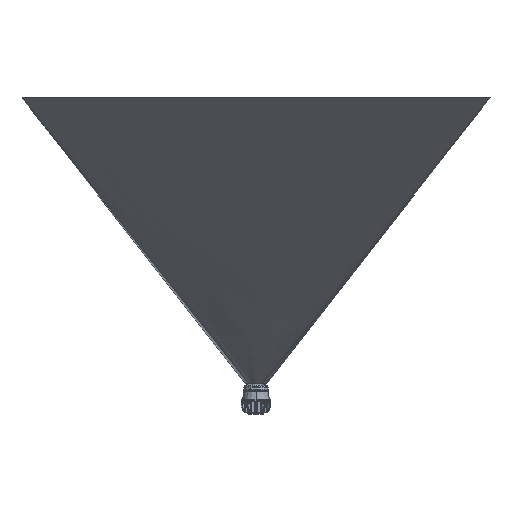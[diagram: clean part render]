
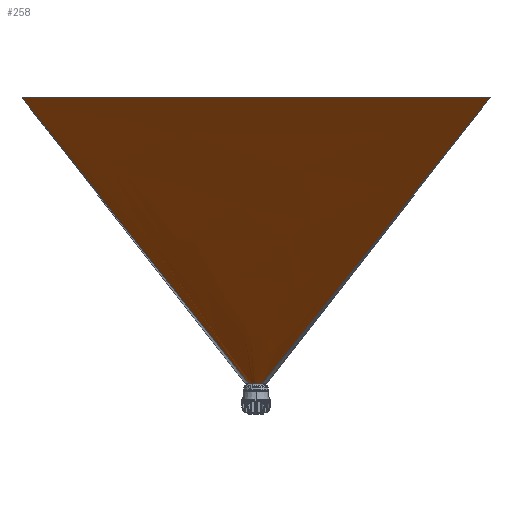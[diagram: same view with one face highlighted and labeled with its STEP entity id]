
A CAD part, left-side view. The second image highlights one B-rep face of the part: STEP entity #258.
In plain terms, the highlighted free-form (B-spline) face has degree [5, 1] with [6, 2] control points.
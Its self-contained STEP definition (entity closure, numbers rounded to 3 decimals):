
#191=CARTESIAN_POINT('Vertex',(-31.618,-21.079,68.)) ;
#201=CARTESIAN_POINT('Vertex',(-1148.613,-819.286,1068.)) ;
#205=CARTESIAN_POINT('Control Point',(-31.618,-21.079,68.)) ;
#206=CARTESIAN_POINT('Control Point',(-1148.613,-819.286,1068.)) ;
#216=CARTESIAN_POINT('Control Point',(-28.571,25.054,68.)) ;
#217=CARTESIAN_POINT('Control Point',(-1148.613,819.286,1068.)) ;
#218=CARTESIAN_POINT('Control Point',(-35.129,17.576,68.)) ;
#219=CARTESIAN_POINT('Control Point',(-1148.613,491.359,1068.)) ;
#220=CARTESIAN_POINT('Control Point',(-39.24,7.952,68.)) ;
#221=CARTESIAN_POINT('Control Point',(-1148.613,163.432,1068.)) ;
#222=CARTESIAN_POINT('Control Point',(-39.945,-2.721,68.)) ;
#223=CARTESIAN_POINT('Control Point',(-1148.613,-163.432,1068.)) ;
#224=CARTESIAN_POINT('Control Point',(-37.135,-12.802,68.)) ;
#225=CARTESIAN_POINT('Control Point',(-1148.613,-491.359,1068.)) ;
#226=CARTESIAN_POINT('Control Point',(-31.618,-21.079,68.)) ;
#227=CARTESIAN_POINT('Control Point',(-1148.613,-819.286,1068.)) ;
#229=CARTESIAN_POINT('Control Point',(-28.571,25.054,68.)) ;
#230=CARTESIAN_POINT('Control Point',(-35.129,17.576,68.)) ;
#231=CARTESIAN_POINT('Control Point',(-39.24,7.952,68.)) ;
#232=CARTESIAN_POINT('Control Point',(-39.945,-2.721,68.)) ;
#233=CARTESIAN_POINT('Control Point',(-37.135,-12.802,68.)) ;
#234=CARTESIAN_POINT('Control Point',(-31.618,-21.079,68.)) ;
#235=CARTESIAN_POINT('Vertex',(-28.571,25.054,68.)) ;
#239=CARTESIAN_POINT('Control Point',(-1148.613,819.286,1068.)) ;
#240=CARTESIAN_POINT('Control Point',(-1148.613,491.359,1068.)) ;
#241=CARTESIAN_POINT('Control Point',(-1148.613,163.432,1068.)) ;
#242=CARTESIAN_POINT('Control Point',(-1148.613,-163.432,1068.)) ;
#243=CARTESIAN_POINT('Control Point',(-1148.613,-491.359,1068.)) ;
#244=CARTESIAN_POINT('Control Point',(-1148.613,-819.286,1068.)) ;
#245=CARTESIAN_POINT('Vertex',(-1148.613,819.286,1068.)) ;
#249=CARTESIAN_POINT('Control Point',(-28.571,25.054,68.)) ;
#250=CARTESIAN_POINT('Control Point',(-1148.613,819.286,1068.)) ;
#253=ORIENTED_EDGE('',*,*,#237,.T.) ;
#254=ORIENTED_EDGE('',*,*,#207,.T.) ;
#255=ORIENTED_EDGE('',*,*,#247,.F.) ;
#256=ORIENTED_EDGE('',*,*,#251,.F.) ;
#258=ADVANCED_FACE('Blend.1',(#257),#215,.T.) ;
#204=B_SPLINE_CURVE_WITH_KNOTS('',1,(#205,#206),.UNSPECIFIED.,.F.,.U.,(2,2),(0.,1698.473),.UNSPECIFIED.) ;
#228=B_SPLINE_CURVE_WITH_KNOTS('',5,(#229,#230,#231,#232,#233,#234),.UNSPECIFIED.,.F.,.U.,(6,6),(0.,1159.929),.UNSPECIFIED.) ;
#238=B_SPLINE_CURVE_WITH_KNOTS('',5,(#239,#240,#241,#242,#243,#244),.UNSPECIFIED.,.F.,.U.,(6,6),(0.,1159.929),.UNSPECIFIED.) ;
#248=B_SPLINE_CURVE_WITH_KNOTS('',1,(#249,#250),.UNSPECIFIED.,.F.,.U.,(2,2),(0.,1698.616),.UNSPECIFIED.) ;
#215=B_SPLINE_SURFACE_WITH_KNOTS('',5,1,((#216,#217),(#218,#219),(#220,#221),(#222,#223),(#224,#225),(#226,#227)),.UNSPECIFIED.,.F.,.F.,.U.,(6,6),(2,2),(0.,1159.929),(0.,1698.616),.UNSPECIFIED.) ;
#207=EDGE_CURVE('',#192,#202,#204,.T.) ;
#237=EDGE_CURVE('',#236,#192,#228,.T.) ;
#247=EDGE_CURVE('',#246,#202,#238,.T.) ;
#251=EDGE_CURVE('',#236,#246,#248,.T.) ;
#252=EDGE_LOOP('',(#253,#254,#255,#256)) ;
#257=FACE_OUTER_BOUND('',#252,.T.) ;
#192=VERTEX_POINT('',#191) ;
#202=VERTEX_POINT('',#201) ;
#236=VERTEX_POINT('',#235) ;
#246=VERTEX_POINT('',#245) ;
